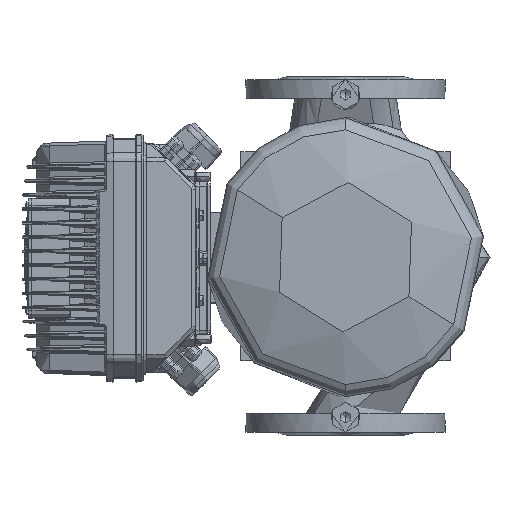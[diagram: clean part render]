
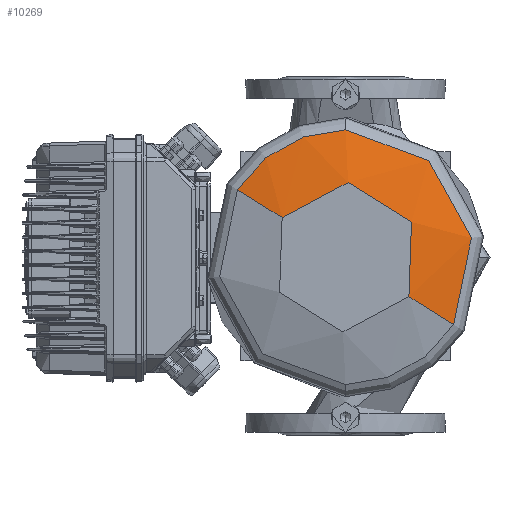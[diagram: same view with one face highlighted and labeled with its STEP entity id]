
A CAD part, top view. The second image highlights one B-rep face of the part: STEP entity #10269.
In plain terms, the highlighted conical face has half-angle 75 degrees and reference radius 101.423 mm.
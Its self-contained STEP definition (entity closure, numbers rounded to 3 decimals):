
#10269=ADVANCED_FACE('',(#26478),#26479,.T.);
#26478=FACE_OUTER_BOUND('',#54000,.T.);
#26479=CONICAL_SURFACE('',#54001,101.423,1.309);
#54000=EDGE_LOOP('',(#290980,#290981,#290982,#290983,#290984));
#54001=AXIS2_PLACEMENT_3D('',#290985,#290986,#290987);
#290980=ORIENTED_EDGE('',*,*,#340981,.F.);
#290981=ORIENTED_EDGE('',*,*,#340982,.T.);
#290982=ORIENTED_EDGE('',*,*,#340983,.T.);
#290983=ORIENTED_EDGE('',*,*,#340984,.F.);
#290984=ORIENTED_EDGE('',*,*,#340985,.F.);
#290985=CARTESIAN_POINT('',(-46.802,-336.148,123.07));
#290986=DIRECTION('',(-0.0,-0.0,-1.0));
#290987=DIRECTION('',(0.848,-0.529,0.0));
#340981=EDGE_CURVE('',#360893,#360894,#360895,.T.);
#340982=EDGE_CURVE('',#360893,#360896,#360897,.T.);
#340983=EDGE_CURVE('',#360896,#360898,#360899,.T.);
#340984=EDGE_CURVE('',#360900,#360898,#360901,.T.);
#340985=EDGE_CURVE('',#360894,#360900,#360902,.T.);
#360893=VERTEX_POINT('',#389142);
#360894=VERTEX_POINT('',#389143);
#360895=LINE('',#389144,#389145);
#360896=VERTEX_POINT('',#389146);
#360897=CIRCLE('',#389147,127.845);
#360898=VERTEX_POINT('',#389148);
#360899=CIRCLE('',#389149,127.845);
#360900=VERTEX_POINT('',#389150);
#360901=LINE('',#389151,#389152);
#360902=CIRCLE('',#389153,75.);
#389142=CARTESIAN_POINT('',(61.662,-403.823,115.99));
#389143=CARTESIAN_POINT('',(16.828,-375.85,130.15));
#389144=CARTESIAN_POINT('',(39.245,-389.836,123.07));
#389145=VECTOR('',#500131,1.0);
#389146=CARTESIAN_POINT('',(-46.802,-208.303,115.99));
#389147=AXIS2_PLACEMENT_3D('',#500132,#500133,#500134);
#389148=CARTESIAN_POINT('',(-155.267,-268.474,115.99));
#389149=AXIS2_PLACEMENT_3D('',#500135,#500136,#500137);
#389150=CARTESIAN_POINT('',(-110.433,-296.447,130.15));
#389151=CARTESIAN_POINT('',(-132.85,-282.46,123.07));
#389152=VECTOR('',#500138,1.0);
#389153=AXIS2_PLACEMENT_3D('',#500139,#500140,#500141);
#500131=DIRECTION('',(-0.819,0.511,0.259));
#500132=CARTESIAN_POINT('',(-46.802,-336.148,115.99));
#500133=DIRECTION('',(0.0,0.0,1.0));
#500134=DIRECTION('',(0.848,-0.529,0.0));
#500135=CARTESIAN_POINT('',(-46.802,-336.148,115.99));
#500136=DIRECTION('',(0.0,0.0,1.0));
#500137=DIRECTION('',(0.848,-0.529,0.0));
#500138=DIRECTION('',(-0.819,0.511,-0.259));
#500139=CARTESIAN_POINT('',(-46.802,-336.148,130.15));
#500140=DIRECTION('',(0.0,0.0,1.0));
#500141=DIRECTION('',(0.848,-0.529,0.0));
